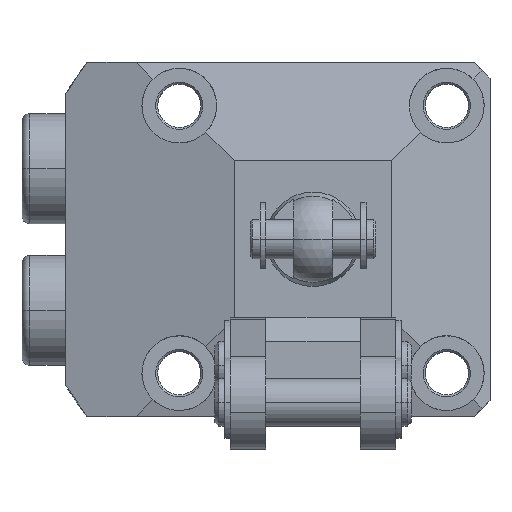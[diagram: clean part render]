
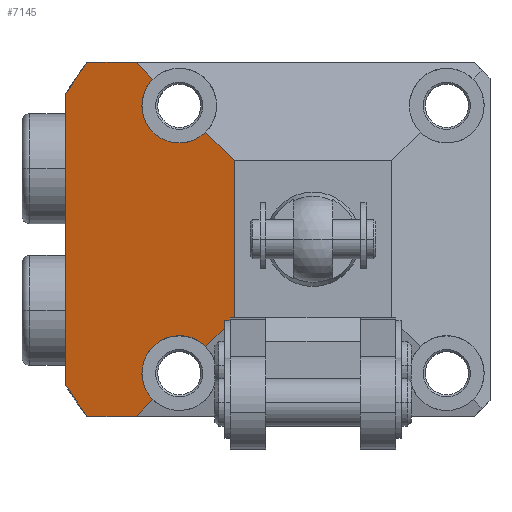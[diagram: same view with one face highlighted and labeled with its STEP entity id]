
A CAD part, top view. The second image highlights one B-rep face of the part: STEP entity #7145.
In plain terms, the highlighted planar face has unit normal (-0.259, 0, 0.966).
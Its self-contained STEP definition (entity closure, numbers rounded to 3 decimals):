
#2 = ORIENTED_EDGE ( 'NONE', *, *, #1251, .T. ) ;
#105 = EDGE_CURVE ( 'NONE', #5338, #6549, #2989, .T. ) ;
#200 = CARTESIAN_POINT ( 'NONE',  ( -21.75, -17., 52.852 ) ) ;
#286 = LINE ( 'NONE', #8298, #5046 ) ;
#371 = ORIENTED_EDGE ( 'NONE', *, *, #2581, .T. ) ;
#483 =( BOUNDED_CURVE ( )  B_SPLINE_CURVE ( 3, ( #6306, #5674, #8263, #4395 ),
 .UNSPECIFIED., .F., .T. ) 
 B_SPLINE_CURVE_WITH_KNOTS ( ( 4, 4 ),
 ( 2.356, 3.142 ),
 .UNSPECIFIED. ) 
 CURVE ( )  GEOMETRIC_REPRESENTATION_ITEM ( )  RATIONAL_B_SPLINE_CURVE ( ( 1., 0.949, 0.949, 1. ) ) 
 REPRESENTATION_ITEM ( '' )  );
#562 = CARTESIAN_POINT ( 'NONE',  ( -22.5, -22.5, 52.651 ) ) ;
#588 = ORIENTED_EDGE ( 'NONE', *, *, #1846, .T. ) ;
#601 = ORIENTED_EDGE ( 'NONE', *, *, #4722, .T. ) ;
#659 = LINE ( 'NONE', #6634, #3906 ) ;
#754 = DIRECTION ( 'NONE',  ( 0.966, 0., 0.259 ) ) ;
#832 = CARTESIAN_POINT ( 'NONE',  ( -21.75, 17., 52.852 ) ) ;
#845 = CARTESIAN_POINT ( 'NONE',  ( -28.74, -22.5, 50.979 ) ) ;
#928 = CARTESIAN_POINT ( 'NONE',  ( 5.687, 5.687, 60.203 ) ) ;
#935 = EDGE_CURVE ( 'NONE', #7809, #7044, #286, .T. ) ;
#966 = CARTESIAN_POINT ( 'NONE',  ( -10., -10., 56. ) ) ;
#1148 = CARTESIAN_POINT ( 'NONE',  ( -31.5, -18.439, 50.239 ) ) ;
#1170 = CARTESIAN_POINT ( 'NONE',  ( -13.641, 13.641, 55.024 ) ) ;
#1251 = EDGE_CURVE ( 'NONE', #7044, #5972, #3934, .T. ) ;
#1388 = CARTESIAN_POINT ( 'NONE',  ( -10., -22.5, 56. ) ) ;
#1421 = CARTESIAN_POINT ( 'NONE',  ( -17.157, 10.126, 54.082 ) ) ;
#1462 = VECTOR ( 'NONE', #3667, 1000. ) ;
#1484 = CARTESIAN_POINT ( 'NONE',  ( -21.75, -17., 52.852 ) ) ;
#1493 = CARTESIAN_POINT ( 'NONE',  ( -31.5, -18.439, 50.239 ) ) ;
#1563 = CARTESIAN_POINT ( 'NONE',  ( -21.75, 17., 52.852 ) ) ;
#1637 = CARTESIAN_POINT ( 'NONE',  ( -10., 22.501, 56. ) ) ;
#1846 = EDGE_CURVE ( 'NONE', #6474, #7809, #3590, .T. ) ;
#1940 = LINE ( 'NONE', #928, #6681 ) ;
#1967 = ORIENTED_EDGE ( 'NONE', *, *, #6401, .T. ) ;
#1989 =( BOUNDED_CURVE ( )  B_SPLINE_CURVE ( 3, ( #7925, #1421, #4699, #832 ),
 .UNSPECIFIED., .F., .F. ) 
 B_SPLINE_CURVE_WITH_KNOTS ( ( 4, 4 ),
 ( 0.785, 3.142 ),
 .UNSPECIFIED. ) 
 CURVE ( )  GEOMETRIC_REPRESENTATION_ITEM ( )  RATIONAL_B_SPLINE_CURVE ( ( 1., 0.588, 0.588, 1. ) ) 
 REPRESENTATION_ITEM ( '' )  );
#2213 = CARTESIAN_POINT ( 'NONE',  ( -21.75, 18.277, 52.852 ) ) ;
#2309 = EDGE_CURVE ( 'NONE', #5000, #5633, #5969, .T. ) ;
#2581 = EDGE_CURVE ( 'NONE', #6217, #5633, #659, .T. ) ;
#2649 = CARTESIAN_POINT ( 'NONE',  ( -20.359, -20.359, 53.224 ) ) ;
#2652 = CARTESIAN_POINT ( 'NONE',  ( -30.672, 19.854, 50.461 ) ) ;
#2701 =( BOUNDED_CURVE ( )  B_SPLINE_CURVE ( 3, ( #7179, #2652, #6514, #7827 ),
 .UNSPECIFIED., .F., .F. ) 
 B_SPLINE_CURVE_WITH_KNOTS ( ( 4, 4 ),
 ( 3.671, 3.806 ),
 .UNSPECIFIED. ) 
 CURVE ( )  GEOMETRIC_REPRESENTATION_ITEM ( )  RATIONAL_B_SPLINE_CURVE ( ( 1., 0.998, 0.998, 1. ) ) 
 REPRESENTATION_ITEM ( '' )  );
#2751 = DIRECTION ( 'NONE',  ( -0.695, 0.695, -0.186 ) ) ;
#2787 = CARTESIAN_POINT ( 'NONE',  ( -17.157, -10.126, 54.082 ) ) ;
#2828 = ORIENTED_EDGE ( 'NONE', *, *, #105, .F. ) ;
#2870 = DIRECTION ( 'NONE',  ( 0.695, 0.695, 0.186 ) ) ;
#2876 = VERTEX_POINT ( 'NONE', #1170 ) ;
#2989 = LINE ( 'NONE', #3023, #1462 ) ;
#3023 = CARTESIAN_POINT ( 'NONE',  ( -10., 22.501, 56. ) ) ;
#3062 = EDGE_CURVE ( 'NONE', #6217, #5972, #2701, .T. ) ;
#3238 = LINE ( 'NONE', #5523, #7793 ) ;
#3288 = ORIENTED_EDGE ( 'NONE', *, *, #935, .T. ) ;
#3583 = DIRECTION ( 'NONE',  ( -0.966, 0., -0.259 ) ) ;
#3590 =( BOUNDED_CURVE ( )  B_SPLINE_CURVE ( 3, ( #8032, #2213, #6697, #4166 ),
 .UNSPECIFIED., .F., .F. ) 
 B_SPLINE_CURVE_WITH_KNOTS ( ( 4, 4 ),
 ( 3.142, 3.927 ),
 .UNSPECIFIED. ) 
 CURVE ( )  GEOMETRIC_REPRESENTATION_ITEM ( )  RATIONAL_B_SPLINE_CURVE ( ( 1., 0.949, 0.949, 1. ) ) 
 REPRESENTATION_ITEM ( '' )  );
#3667 = DIRECTION ( 'NONE',  ( 0., -1., 0. ) ) ;
#3716 = CARTESIAN_POINT ( 'NONE',  ( -31.5, 18.439, 50.239 ) ) ;
#3906 = VECTOR ( 'NONE', #6006, 1000. ) ;
#3920 = VERTEX_POINT ( 'NONE', #562 ) ;
#3934 = LINE ( 'NONE', #4814, #5253 ) ;
#4070 = CARTESIAN_POINT ( 'NONE',  ( -29.751, -21.209, 50.708 ) ) ;
#4166 = CARTESIAN_POINT ( 'NONE',  ( -20.359, 20.359, 53.224 ) ) ;
#4202 = EDGE_CURVE ( 'NONE', #5360, #6630, #8000, .T. ) ;
#4270 = LINE ( 'NONE', #1388, #6384 ) ;
#4356 = AXIS2_PLACEMENT_3D ( 'NONE', #1637, #7467, #3583 ) ;
#4381 = ORIENTED_EDGE ( 'NONE', *, *, #6368, .T. ) ;
#4395 = CARTESIAN_POINT ( 'NONE',  ( -21.75, -17., 52.852 ) ) ;
#4699 = CARTESIAN_POINT ( 'NONE',  ( -21.75, 12.028, 52.852 ) ) ;
#4715 = CARTESIAN_POINT ( 'NONE',  ( -30.672, -19.854, 50.461 ) ) ;
#4722 = EDGE_CURVE ( 'NONE', #2876, #6474, #1989, .T. ) ;
#4744 = ORIENTED_EDGE ( 'NONE', *, *, #3062, .F. ) ;
#4814 = CARTESIAN_POINT ( 'NONE',  ( -10., 22.5, 56. ) ) ;
#4928 = CARTESIAN_POINT ( 'NONE',  ( -20.359, 20.359, 53.224 ) ) ;
#4952 = CARTESIAN_POINT ( 'NONE',  ( -13.641, -13.641, 55.024 ) ) ;
#5000 = VERTEX_POINT ( 'NONE', #6219 ) ;
#5046 = VECTOR ( 'NONE', #7676, 1000. ) ;
#5067 = EDGE_CURVE ( 'NONE', #6326, #5360, #483, .T. ) ;
#5253 = VECTOR ( 'NONE', #7432, 1000. ) ;
#5338 = VERTEX_POINT ( 'NONE', #5354 ) ;
#5354 = CARTESIAN_POINT ( 'NONE',  ( -10., 10., 56. ) ) ;
#5360 = VERTEX_POINT ( 'NONE', #200 ) ;
#5523 = CARTESIAN_POINT ( 'NONE',  ( 5.687, 5.687, 60.203 ) ) ;
#5583 = LINE ( 'NONE', #6622, #5779 ) ;
#5633 = VERTEX_POINT ( 'NONE', #1148 ) ;
#5674 = CARTESIAN_POINT ( 'NONE',  ( -21.261, -19.456, 52.983 ) ) ;
#5779 = VECTOR ( 'NONE', #2751, 1000. ) ;
#5969 =( BOUNDED_CURVE ( )  B_SPLINE_CURVE ( 3, ( #845, #4070, #4715, #1493 ),
 .UNSPECIFIED., .F., .T. ) 
 B_SPLINE_CURVE_WITH_KNOTS ( ( 4, 4 ),
 ( 2.477, 2.612 ),
 .UNSPECIFIED. ) 
 CURVE ( )  GEOMETRIC_REPRESENTATION_ITEM ( )  RATIONAL_B_SPLINE_CURVE ( ( 1., 0.998, 0.998, 1. ) ) 
 REPRESENTATION_ITEM ( '' )  );
#5972 = VERTEX_POINT ( 'NONE', #6706 ) ;
#5987 = EDGE_CURVE ( 'NONE', #3920, #6326, #1940, .T. ) ;
#6006 = DIRECTION ( 'NONE',  ( 0., -1., 0. ) ) ;
#6055 = ORIENTED_EDGE ( 'NONE', *, *, #4202, .T. ) ;
#6150 = PLANE ( 'NONE',  #4356 ) ;
#6156 = FACE_OUTER_BOUND ( 'NONE', #7782, .T. ) ;
#6217 = VERTEX_POINT ( 'NONE', #3716 ) ;
#6219 = CARTESIAN_POINT ( 'NONE',  ( -28.74, -22.5, 50.979 ) ) ;
#6306 = CARTESIAN_POINT ( 'NONE',  ( -20.359, -20.359, 53.224 ) ) ;
#6326 = VERTEX_POINT ( 'NONE', #2649 ) ;
#6368 = EDGE_CURVE ( 'NONE', #5000, #3920, #4270, .T. ) ;
#6384 = VECTOR ( 'NONE', #754, 1000. ) ;
#6401 = EDGE_CURVE ( 'NONE', #5338, #2876, #5583, .T. ) ;
#6474 = VERTEX_POINT ( 'NONE', #1563 ) ;
#6514 = CARTESIAN_POINT ( 'NONE',  ( -29.751, 21.209, 50.708 ) ) ;
#6549 = VERTEX_POINT ( 'NONE', #966 ) ;
#6573 = EDGE_CURVE ( 'NONE', #6630, #6549, #3238, .T. ) ;
#6622 = CARTESIAN_POINT ( 'NONE',  ( -16.034, 16.034, 54.383 ) ) ;
#6630 = VERTEX_POINT ( 'NONE', #4952 ) ;
#6634 = CARTESIAN_POINT ( 'NONE',  ( -31.5, 22.501, 50.239 ) ) ;
#6681 = VECTOR ( 'NONE', #2870, 1000. ) ;
#6697 = CARTESIAN_POINT ( 'NONE',  ( -21.261, 19.456, 52.983 ) ) ;
#6706 = CARTESIAN_POINT ( 'NONE',  ( -28.74, 22.5, 50.979 ) ) ;
#7044 = VERTEX_POINT ( 'NONE', #7957 ) ;
#7145 = ADVANCED_FACE ( 'NONE', ( #6156 ), #6150, .F. ) ;
#7179 = CARTESIAN_POINT ( 'NONE',  ( -31.5, 18.439, 50.239 ) ) ;
#7287 = CARTESIAN_POINT ( 'NONE',  ( -21.75, -12.028, 52.852 ) ) ;
#7309 = CARTESIAN_POINT ( 'NONE',  ( -13.641, -13.641, 55.024 ) ) ;
#7415 = ORIENTED_EDGE ( 'NONE', *, *, #2309, .F. ) ;
#7432 = DIRECTION ( 'NONE',  ( -0.966, 0., -0.259 ) ) ;
#7448 = DIRECTION ( 'NONE',  ( 0.695, 0.695, 0.186 ) ) ;
#7467 = DIRECTION ( 'NONE',  ( 0.259, 0., -0.966 ) ) ;
#7676 = DIRECTION ( 'NONE',  ( -0.695, 0.695, -0.186 ) ) ;
#7782 = EDGE_LOOP ( 'NONE', ( #4381, #7800, #8388, #6055, #7867, #2828, #1967, #601, #588, #3288, #2, #4744, #371, #7415 ) ) ;
#7793 = VECTOR ( 'NONE', #7448, 1000. ) ;
#7800 = ORIENTED_EDGE ( 'NONE', *, *, #5987, .T. ) ;
#7809 = VERTEX_POINT ( 'NONE', #4928 ) ;
#7827 = CARTESIAN_POINT ( 'NONE',  ( -28.74, 22.5, 50.979 ) ) ;
#7867 = ORIENTED_EDGE ( 'NONE', *, *, #6573, .T. ) ;
#7925 = CARTESIAN_POINT ( 'NONE',  ( -13.641, 13.641, 55.024 ) ) ;
#7957 = CARTESIAN_POINT ( 'NONE',  ( -22.5, 22.5, 52.651 ) ) ;
#8000 =( BOUNDED_CURVE ( )  B_SPLINE_CURVE ( 3, ( #1484, #7287, #2787, #7309 ),
 .UNSPECIFIED., .F., .T. ) 
 B_SPLINE_CURVE_WITH_KNOTS ( ( 4, 4 ),
 ( 3.142, 5.498 ),
 .UNSPECIFIED. ) 
 CURVE ( )  GEOMETRIC_REPRESENTATION_ITEM ( )  RATIONAL_B_SPLINE_CURVE ( ( 1., 0.588, 0.588, 1. ) ) 
 REPRESENTATION_ITEM ( '' )  );
#8032 = CARTESIAN_POINT ( 'NONE',  ( -21.75, 17., 52.852 ) ) ;
#8263 = CARTESIAN_POINT ( 'NONE',  ( -21.75, -18.277, 52.852 ) ) ;
#8298 = CARTESIAN_POINT ( 'NONE',  ( -16.034, 16.034, 54.383 ) ) ;
#8388 = ORIENTED_EDGE ( 'NONE', *, *, #5067, .T. ) ;
